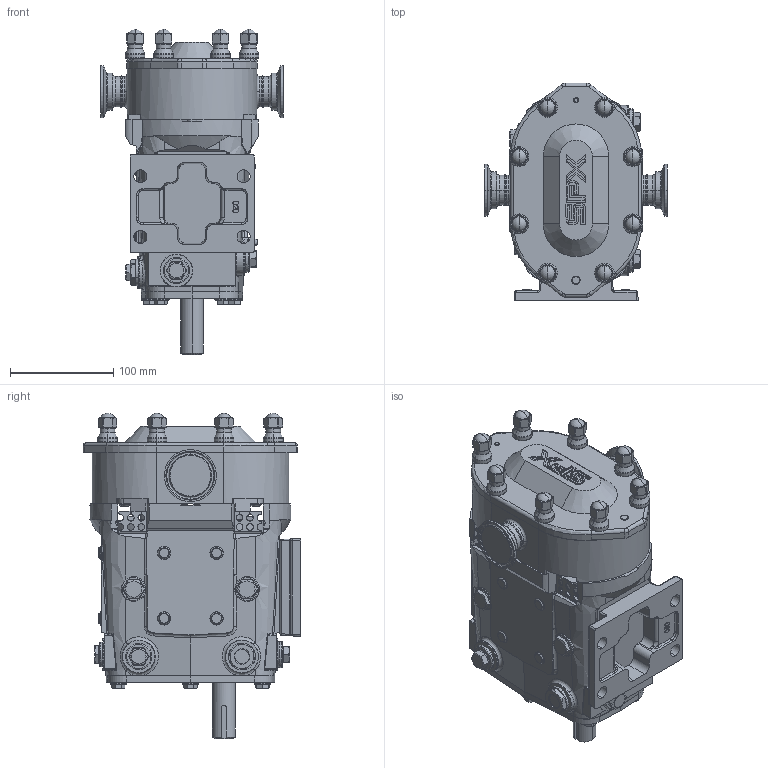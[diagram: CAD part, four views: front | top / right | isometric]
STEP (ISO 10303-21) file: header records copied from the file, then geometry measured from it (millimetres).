
FILE_DESCRIPTION (( 'STEP AP214' ), '1' );
FILE_NAME ('Model 006 Universal 3 Series Lower Drive 1.STEP', '2017-11-17T21:22:10', ( '' ), ( '' ), 'SwSTEP 2.0', 'SolidWorks 2014', '' );
FILE_SCHEMA (( 'AUTOMOTIVE_DESIGN' ));
Length unit declared in the file: inch
Products named in the file (1): Model 006 Universal 3 Series Lower Drive 1
Bounding box: 177.02 x 210.96 x 315.56 mm (x, y, z)
Volume: 4315013.1 mm3; surface area: 314123.9 mm2
Topology: 3 solids, 3 shells, 2179 faces, 5582 edges, 3516 vertices
Faces by surface type: plane 838, cylinder 673, torus 283, cone 240, bspline 123, sphere 22
Entity records: 73411 total; most frequent: CARTESIAN_POINT 21028, ORIENTED_EDGE 11132, DIRECTION 10973, EDGE_CURVE 5566, AXIS2_PLACEMENT_3D 4217, VERTEX_POINT 3516, LINE 2539, VECTOR 2539
